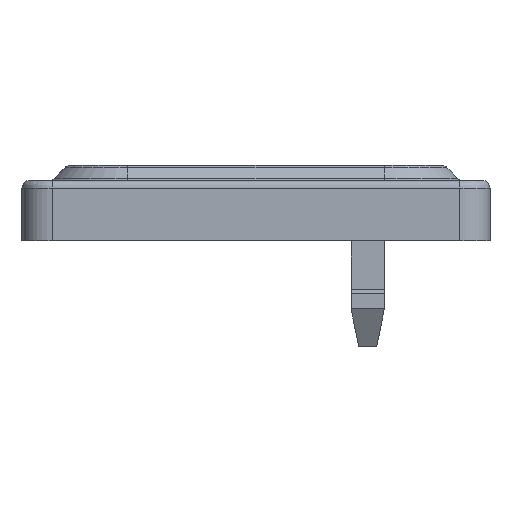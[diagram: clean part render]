
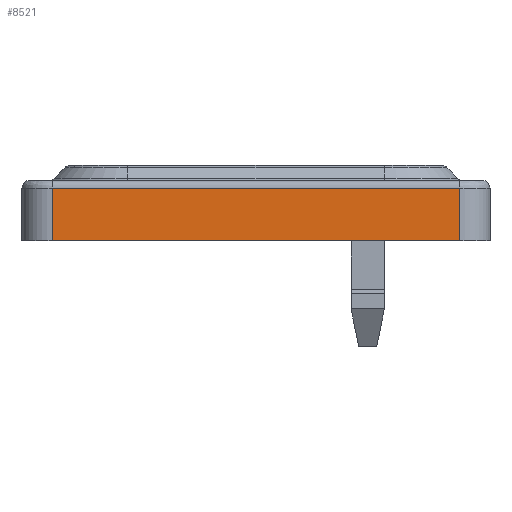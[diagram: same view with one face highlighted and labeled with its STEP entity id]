
A CAD part, left-side view. The second image highlights one B-rep face of the part: STEP entity #8521.
In plain terms, the highlighted planar face has unit normal (-1, 0, 0).
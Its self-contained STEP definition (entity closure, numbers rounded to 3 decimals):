
#322 = AXIS2_PLACEMENT_3D ( 'NONE', #8875, #8004, #343 ) ;
#343 = DIRECTION ( 'NONE',  ( 0., 0., -1. ) ) ;
#396 = VERTEX_POINT ( 'NONE', #5348 ) ;
#545 = EDGE_CURVE ( 'NONE', #10715, #10092, #4769, .T. ) ;
#1145 = CARTESIAN_POINT ( 'NONE',  ( -83.5, -13.5, 0. ) ) ;
#1921 = FACE_OUTER_BOUND ( 'NONE', #3880, .T. ) ;
#2122 = PLANE ( 'NONE',  #322 ) ;
#2638 = CARTESIAN_POINT ( 'NONE',  ( -83.5, -13.5, 3.5 ) ) ;
#2677 = VECTOR ( 'NONE', #4010, 1000. ) ;
#3880 = EDGE_LOOP ( 'NONE', ( #9162, #7341, #5660, #5435 ) ) ;
#4010 = DIRECTION ( 'NONE',  ( 0., -1., 0. ) ) ;
#4769 = LINE ( 'NONE', #8243, #2677 ) ;
#5166 = DIRECTION ( 'NONE',  ( 0., 1., 0. ) ) ;
#5348 = CARTESIAN_POINT ( 'NONE',  ( -83.5, 13.5, 0. ) ) ;
#5435 = ORIENTED_EDGE ( 'NONE', *, *, #6598, .F. ) ;
#5660 = ORIENTED_EDGE ( 'NONE', *, *, #6804, .F. ) ;
#6042 = VECTOR ( 'NONE', #5166, 1000. ) ;
#6053 = VECTOR ( 'NONE', #10585, 1000. ) ;
#6598 = EDGE_CURVE ( 'NONE', #10092, #9091, #7841, .T. ) ;
#6804 = EDGE_CURVE ( 'NONE', #9091, #396, #8230, .T. ) ;
#6900 = EDGE_CURVE ( 'NONE', #396, #10715, #7313, .T. ) ;
#7192 = CARTESIAN_POINT ( 'NONE',  ( -83.5, -13.5, 5. ) ) ;
#7313 = LINE ( 'NONE', #7732, #9256 ) ;
#7341 = ORIENTED_EDGE ( 'NONE', *, *, #6900, .F. ) ;
#7732 = CARTESIAN_POINT ( 'NONE',  ( -83.5, 13.5, 5. ) ) ;
#7841 = LINE ( 'NONE', #7192, #6053 ) ;
#8004 = DIRECTION ( 'NONE',  ( 1., 0., 0. ) ) ;
#8083 = CARTESIAN_POINT ( 'NONE',  ( -83.5, 13.5, 3.5 ) ) ;
#8230 = LINE ( 'NONE', #10201, #6042 ) ;
#8243 = CARTESIAN_POINT ( 'NONE',  ( -83.5, 15.5, 3.5 ) ) ;
#8521 = ADVANCED_FACE ( 'NONE', ( #1921 ), #2122, .F. ) ;
#8875 = CARTESIAN_POINT ( 'NONE',  ( -83.5, 15.5, 5. ) ) ;
#9091 = VERTEX_POINT ( 'NONE', #1145 ) ;
#9162 = ORIENTED_EDGE ( 'NONE', *, *, #545, .F. ) ;
#9256 = VECTOR ( 'NONE', #10279, 1000. ) ;
#10092 = VERTEX_POINT ( 'NONE', #2638 ) ;
#10201 = CARTESIAN_POINT ( 'NONE',  ( -83.5, 15.5, 0. ) ) ;
#10279 = DIRECTION ( 'NONE',  ( 0., 0., 1. ) ) ;
#10585 = DIRECTION ( 'NONE',  ( 0., 0., -1. ) ) ;
#10715 = VERTEX_POINT ( 'NONE', #8083 ) ;
